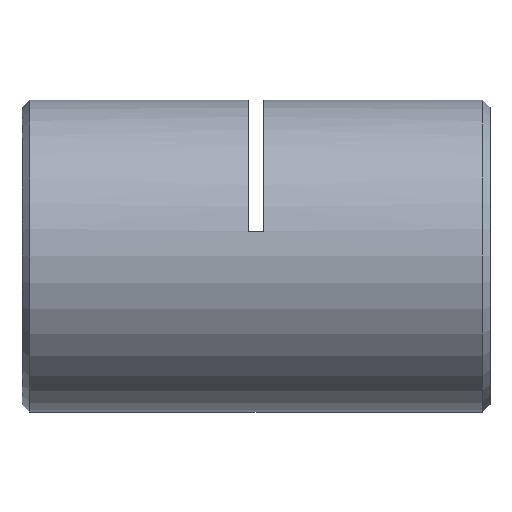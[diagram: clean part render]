
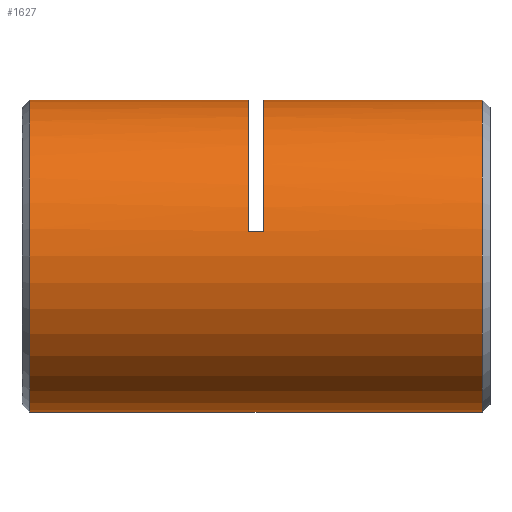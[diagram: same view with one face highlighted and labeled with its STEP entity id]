
A CAD part, left-side view. The second image highlights one B-rep face of the part: STEP entity #1627.
In plain terms, the highlighted cylindrical face has radius 8 mm (diameter 16 mm), a partial arc.
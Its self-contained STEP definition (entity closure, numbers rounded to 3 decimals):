
#10 = CARTESIAN_POINT ( 'NONE',  ( 0., 0.25, 8. ) ) ;
#95 = EDGE_CURVE ( 'NONE', #4316, #2817, #1823, .T. ) ;
#130 = AXIS2_PLACEMENT_3D ( 'NONE', #3963, #1364, #6459 ) ;
#380 = ORIENTED_EDGE ( 'NONE', *, *, #5408, .F. ) ;
#545 = EDGE_CURVE ( 'NONE', #720, #4593, #1810, .T. ) ;
#720 = VERTEX_POINT ( 'NONE', #5058 ) ;
#801 = CARTESIAN_POINT ( 'NONE',  ( 0., 12.65, 0. ) ) ;
#937 = VERTEX_POINT ( 'NONE', #5500 ) ;
#1174 = VECTOR ( 'NONE', #6414, 1000. ) ;
#1176 = VERTEX_POINT ( 'NONE', #4598 ) ;
#1298 = LINE ( 'NONE', #2751, #5598 ) ;
#1343 = DIRECTION ( 'NONE',  ( 0., 1., 0. ) ) ;
#1354 = CIRCLE ( 'NONE', #3456, 8. ) ;
#1358 = CARTESIAN_POINT ( 'NONE',  ( -7.897, 12.65, 1.28 ) ) ;
#1364 = DIRECTION ( 'NONE',  ( 0., 1., 0. ) ) ;
#1392 = EDGE_CURVE ( 'NONE', #937, #6346, #3833, .T. ) ;
#1457 = CYLINDRICAL_SURFACE ( 'NONE', #2341, 8. ) ;
#1627 = ADVANCED_FACE ( 'NONE', ( #1775 ), #1457, .T. ) ;
#1666 = DIRECTION ( 'NONE',  ( 0., 1., 0. ) ) ;
#1775 = FACE_OUTER_BOUND ( 'NONE', #3929, .T. ) ;
#1810 = LINE ( 'NONE', #3508, #5808 ) ;
#1823 = CIRCLE ( 'NONE', #2119, 8. ) ;
#1826 = ORIENTED_EDGE ( 'NONE', *, *, #4314, .T. ) ;
#2043 = CARTESIAN_POINT ( 'NONE',  ( 0., 23.85, 8. ) ) ;
#2119 = AXIS2_PLACEMENT_3D ( 'NONE', #2678, #3181, #4615 ) ;
#2147 = CARTESIAN_POINT ( 'NONE',  ( 0., 12.65, 8. ) ) ;
#2149 = AXIS2_PLACEMENT_3D ( 'NONE', #801, #1343, #2844 ) ;
#2341 = AXIS2_PLACEMENT_3D ( 'NONE', #4606, #2579, #5620 ) ;
#2450 = CARTESIAN_POINT ( 'NONE',  ( 0., 0.25, 8. ) ) ;
#2497 = ORIENTED_EDGE ( 'NONE', *, *, #95, .T. ) ;
#2547 = CIRCLE ( 'NONE', #130, 8. ) ;
#2565 = EDGE_CURVE ( 'NONE', #1176, #2817, #1298, .T. ) ;
#2579 = DIRECTION ( 'NONE',  ( 0., 1., 0. ) ) ;
#2659 = DIRECTION ( 'NONE',  ( 0., 1., 0. ) ) ;
#2678 = CARTESIAN_POINT ( 'NONE',  ( 0., 23.85, 0. ) ) ;
#2691 = EDGE_CURVE ( 'NONE', #1176, #937, #2547, .T. ) ;
#2751 = CARTESIAN_POINT ( 'NONE',  ( 0., 0.25, -8. ) ) ;
#2817 = VERTEX_POINT ( 'NONE', #2886 ) ;
#2844 = DIRECTION ( 'NONE',  ( 0., 0., 1. ) ) ;
#2886 = CARTESIAN_POINT ( 'NONE',  ( 0., 23.85, -8. ) ) ;
#2934 = DIRECTION ( 'NONE',  ( 0., 1., 0. ) ) ;
#3104 = VERTEX_POINT ( 'NONE', #2147 ) ;
#3181 = DIRECTION ( 'NONE',  ( 0., -1., 0. ) ) ;
#3456 = AXIS2_PLACEMENT_3D ( 'NONE', #4163, #1666, #3629 ) ;
#3508 = CARTESIAN_POINT ( 'NONE',  ( -7.897, 12.25, 1.28 ) ) ;
#3520 = DIRECTION ( 'NONE',  ( 0., 1., 0. ) ) ;
#3629 = DIRECTION ( 'NONE',  ( 0., 0., 1. ) ) ;
#3634 = ORIENTED_EDGE ( 'NONE', *, *, #2565, .F. ) ;
#3833 = LINE ( 'NONE', #2450, #1174 ) ;
#3929 = EDGE_LOOP ( 'NONE', ( #3634, #6267, #5398, #380, #5766, #5648, #1826, #2497 ) ) ;
#3963 = CARTESIAN_POINT ( 'NONE',  ( 0., 0.65, 0. ) ) ;
#4162 = EDGE_CURVE ( 'NONE', #4593, #3104, #5369, .T. ) ;
#4163 = CARTESIAN_POINT ( 'NONE',  ( 0., 11.85, 0. ) ) ;
#4314 = EDGE_CURVE ( 'NONE', #3104, #4316, #4344, .T. ) ;
#4316 = VERTEX_POINT ( 'NONE', #2043 ) ;
#4344 = LINE ( 'NONE', #10, #5593 ) ;
#4593 = VERTEX_POINT ( 'NONE', #1358 ) ;
#4598 = CARTESIAN_POINT ( 'NONE',  ( 0., 0.65, -8. ) ) ;
#4606 = CARTESIAN_POINT ( 'NONE',  ( 0., 0.25, 0. ) ) ;
#4615 = DIRECTION ( 'NONE',  ( 0., 0., -1. ) ) ;
#4669 = CARTESIAN_POINT ( 'NONE',  ( 0., 11.85, 8. ) ) ;
#5058 = CARTESIAN_POINT ( 'NONE',  ( -7.897, 11.85, 1.28 ) ) ;
#5369 = CIRCLE ( 'NONE', #2149, 8. ) ;
#5398 = ORIENTED_EDGE ( 'NONE', *, *, #1392, .T. ) ;
#5408 = EDGE_CURVE ( 'NONE', #720, #6346, #1354, .T. ) ;
#5500 = CARTESIAN_POINT ( 'NONE',  ( 0., 0.65, 8. ) ) ;
#5593 = VECTOR ( 'NONE', #3520, 1000. ) ;
#5598 = VECTOR ( 'NONE', #2659, 1000. ) ;
#5620 = DIRECTION ( 'NONE',  ( 0., 0., 1. ) ) ;
#5648 = ORIENTED_EDGE ( 'NONE', *, *, #4162, .T. ) ;
#5766 = ORIENTED_EDGE ( 'NONE', *, *, #545, .T. ) ;
#5808 = VECTOR ( 'NONE', #2934, 1000. ) ;
#6267 = ORIENTED_EDGE ( 'NONE', *, *, #2691, .T. ) ;
#6346 = VERTEX_POINT ( 'NONE', #4669 ) ;
#6414 = DIRECTION ( 'NONE',  ( 0., 1., 0. ) ) ;
#6459 = DIRECTION ( 'NONE',  ( 0., 0., 1. ) ) ;
